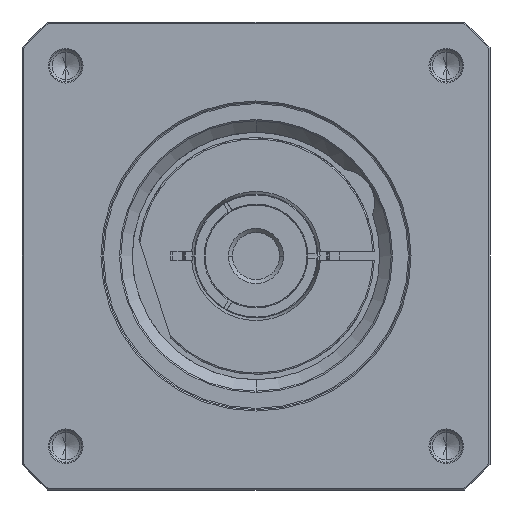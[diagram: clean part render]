
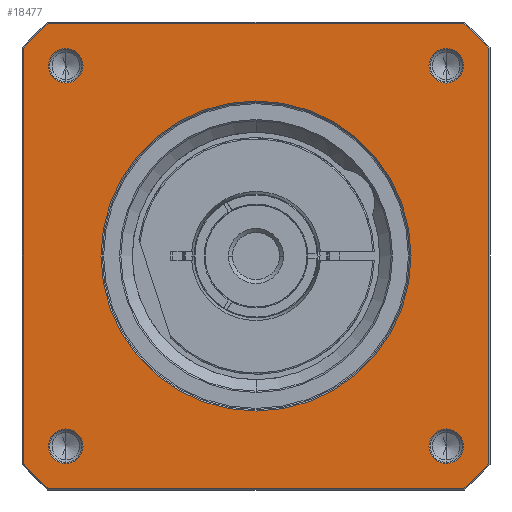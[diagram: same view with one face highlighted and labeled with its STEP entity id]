
A CAD part, left-side view. The second image highlights one B-rep face of the part: STEP entity #18477.
In plain terms, the highlighted planar face has unit normal (-1, 0, 0) as drawn and (0, 0, 1) by its records, which use the part's own axes.
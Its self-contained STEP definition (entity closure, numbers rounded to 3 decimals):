
#17228=CARTESIAN_POINT('',(0.,0.,
76.));
#17229=DIRECTION('',(0.,0.,-1.));
#17230=DIRECTION('',(0.,-1.,0.));
#17231=AXIS2_PLACEMENT_3D('',#17228,#17229,#17230);
#17233=CARTESIAN_POINT('',(0.,0.,
76.));
#17234=DIRECTION('',(0.,0.,-1.));
#17235=DIRECTION('',(0.,1.,0.));
#17236=AXIS2_PLACEMENT_3D('',#17233,#17234,#17235);
#17238=CARTESIAN_POINT('',(0.,0.,76.));
#17239=DIRECTION('',(0.,0.,1.));
#17240=DIRECTION('',(-0.746,-0.666,0.));
#17241=AXIS2_PLACEMENT_3D('',#17238,#17239,#17240);
#17253=DIRECTION('',(1.,0.,0.));
#17254=VECTOR('',#17253,154.58);
#17255=CARTESIAN_POINT('',(-77.29,-86.5,76.));
#17256=LINE('',#17255,#17254);
#17266=CARTESIAN_POINT('',(0.,0.,76.));
#17267=DIRECTION('',(0.,0.,1.));
#17268=DIRECTION('',(0.666,-0.746,0.));
#17269=AXIS2_PLACEMENT_3D('',#17266,#17267,#17268);
#17281=DIRECTION('',(0.,1.,0.));
#17282=VECTOR('',#17281,154.58);
#17283=CARTESIAN_POINT('',(86.5,-77.29,76.));
#17284=LINE('',#17283,#17282);
#17294=CARTESIAN_POINT('',(0.,0.,76.));
#17295=DIRECTION('',(0.,0.,1.));
#17296=DIRECTION('',(0.746,0.666,0.));
#17297=AXIS2_PLACEMENT_3D('',#17294,#17295,#17296);
#17309=DIRECTION('',(-1.,0.,0.));
#17310=VECTOR('',#17309,154.58);
#17311=CARTESIAN_POINT('',(77.29,86.5,76.));
#17312=LINE('',#17311,#17310);
#17317=CARTESIAN_POINT('',(0.,0.,76.));
#17318=DIRECTION('',(0.,0.,1.));
#17319=DIRECTION('',(-0.666,0.746,0.));
#17320=AXIS2_PLACEMENT_3D('',#17317,#17318,#17319);
#17337=DIRECTION('',(0.,-1.,0.));
#17338=VECTOR('',#17337,154.58);
#17339=CARTESIAN_POINT('',(-86.5,77.29,76.));
#17340=LINE('',#17339,#17338);
#17423=CARTESIAN_POINT('',(-70.711,70.711,76.));
#17424=DIRECTION('',(0.,0.,1.));
#17425=DIRECTION('',(-1.,0.,0.));
#17426=AXIS2_PLACEMENT_3D('',#17423,#17424,#17425);
#17441=CARTESIAN_POINT('',(-70.711,70.711,76.));
#17442=DIRECTION('',(0.,0.,1.));
#17443=DIRECTION('',(1.,0.,0.));
#17444=AXIS2_PLACEMENT_3D('',#17441,#17442,#17443);
#17477=CARTESIAN_POINT('',(70.711,70.711,76.));
#17478=DIRECTION('',(0.,0.,1.));
#17479=DIRECTION('',(-1.,0.,0.));
#17480=AXIS2_PLACEMENT_3D('',#17477,#17478,#17479);
#17495=CARTESIAN_POINT('',(70.711,70.711,76.));
#17496=DIRECTION('',(0.,0.,1.));
#17497=DIRECTION('',(1.,0.,0.));
#17498=AXIS2_PLACEMENT_3D('',#17495,#17496,#17497);
#17531=CARTESIAN_POINT('',(70.711,-70.711,76.));
#17532=DIRECTION('',(0.,0.,1.));
#17533=DIRECTION('',(-1.,0.,0.));
#17534=AXIS2_PLACEMENT_3D('',#17531,#17532,#17533);
#17549=CARTESIAN_POINT('',(70.711,-70.711,76.));
#17550=DIRECTION('',(0.,0.,1.));
#17551=DIRECTION('',(1.,0.,0.));
#17552=AXIS2_PLACEMENT_3D('',#17549,#17550,#17551);
#17585=CARTESIAN_POINT('',(-70.711,-70.711,76.));
#17586=DIRECTION('',(0.,0.,1.));
#17587=DIRECTION('',(-1.,0.,0.));
#17588=AXIS2_PLACEMENT_3D('',#17585,#17586,#17587);
#17603=CARTESIAN_POINT('',(-70.711,-70.711,76.));
#17604=DIRECTION('',(0.,0.,1.));
#17605=DIRECTION('',(1.,0.,0.));
#17606=AXIS2_PLACEMENT_3D('',#17603,#17604,#17605);
#17735=CARTESIAN_POINT('',(86.5,-77.29,76.));
#17736=CARTESIAN_POINT('',(86.5,77.29,76.));
#17737=VERTEX_POINT('',#17735);
#17738=VERTEX_POINT('',#17736);
#17743=CARTESIAN_POINT('',(77.29,-86.5,76.));
#17744=VERTEX_POINT('',#17743);
#17747=CARTESIAN_POINT('',(-77.29,-86.5,76.));
#17748=VERTEX_POINT('',#17747);
#17751=CARTESIAN_POINT('',(-86.5,-77.29,76.));
#17752=VERTEX_POINT('',#17751);
#17755=CARTESIAN_POINT('',(-86.5,77.29,76.));
#17756=VERTEX_POINT('',#17755);
#17759=CARTESIAN_POINT('',(-77.29,86.5,76.));
#17760=VERTEX_POINT('',#17759);
#17763=CARTESIAN_POINT('',(77.29,86.5,76.));
#17764=VERTEX_POINT('',#17763);
#17773=CARTESIAN_POINT('',(-77.111,70.711,76.));
#17774=CARTESIAN_POINT('',(-64.311,70.711,76.));
#17775=VERTEX_POINT('',#17773);
#17776=VERTEX_POINT('',#17774);
#17799=CARTESIAN_POINT('',(77.111,70.711,76.));
#17800=CARTESIAN_POINT('',(64.311,70.711,76.));
#17801=VERTEX_POINT('',#17799);
#17802=VERTEX_POINT('',#17800);
#17807=CARTESIAN_POINT('',(77.111,-70.711,76.));
#17808=CARTESIAN_POINT('',(64.311,-70.711,76.));
#17809=VERTEX_POINT('',#17807);
#17810=VERTEX_POINT('',#17808);
#17815=CARTESIAN_POINT('',(-64.311,-70.711,76.));
#17816=CARTESIAN_POINT('',(-77.111,-70.711,76.));
#17817=VERTEX_POINT('',#17815);
#17818=VERTEX_POINT('',#17816);
#17823=CARTESIAN_POINT('',(0.,-57.65,76.));
#17824=CARTESIAN_POINT('',(0.,57.65,
76.));
#17825=VERTEX_POINT('',#17823);
#17826=VERTEX_POINT('',#17824);
#18425=CARTESIAN_POINT('',(0.,0.,76.));
#18426=DIRECTION('',(0.,0.,1.));
#18427=DIRECTION('',(1.,0.,0.));
#18428=AXIS2_PLACEMENT_3D('',#18425,#18426,#18427);
#18429=PLANE('',#18428);
#18431=ORIENTED_EDGE('',*,*,#18430,.F.);
#18433=ORIENTED_EDGE('',*,*,#18432,.F.);
#18435=ORIENTED_EDGE('',*,*,#18434,.F.);
#18437=ORIENTED_EDGE('',*,*,#18436,.F.);
#18439=ORIENTED_EDGE('',*,*,#18438,.F.);
#18441=ORIENTED_EDGE('',*,*,#18440,.F.);
#18443=ORIENTED_EDGE('',*,*,#18442,.F.);
#18445=ORIENTED_EDGE('',*,*,#18444,.F.);
#18446=EDGE_LOOP('',(#18431,#18433,#18435,#18437,#18439,#18441,#18443,#18445));
#18447=FACE_OUTER_BOUND('',#18446,.F.);
#18448=ORIENTED_EDGE('',*,*,#18415,.F.);
#18450=ORIENTED_EDGE('',*,*,#18449,.F.);
#18451=EDGE_LOOP('',(#18448,#18450));
#18452=FACE_BOUND('',#18451,.F.);
#18454=ORIENTED_EDGE('',*,*,#18453,.T.);
#18456=ORIENTED_EDGE('',*,*,#18455,.T.);
#18457=EDGE_LOOP('',(#18454,#18456));
#18458=FACE_BOUND('',#18457,.F.);
#18460=ORIENTED_EDGE('',*,*,#18459,.T.);
#18462=ORIENTED_EDGE('',*,*,#18461,.T.);
#18463=EDGE_LOOP('',(#18460,#18462));
#18464=FACE_BOUND('',#18463,.F.);
#18466=ORIENTED_EDGE('',*,*,#18465,.T.);
#18468=ORIENTED_EDGE('',*,*,#18467,.T.);
#18469=EDGE_LOOP('',(#18466,#18468));
#18470=FACE_BOUND('',#18469,.F.);
#18472=ORIENTED_EDGE('',*,*,#18471,.T.);
#18474=ORIENTED_EDGE('',*,*,#18473,.T.);
#18475=EDGE_LOOP('',(#18472,#18474));
#18476=FACE_BOUND('',#18475,.F.);
#18477=ADVANCED_FACE('',(#18447,#18452,#18458,#18464,#18470,#18476),#18429,.T.);
#17232=CIRCLE('',#17231,57.65);
#17237=CIRCLE('',#17236,57.65);
#17242=CIRCLE('',#17241,116.);
#17270=CIRCLE('',#17269,116.);
#17298=CIRCLE('',#17297,116.);
#17321=CIRCLE('',#17320,116.);
#17427=CIRCLE('',#17426,6.4);
#17445=CIRCLE('',#17444,6.4);
#17481=CIRCLE('',#17480,6.4);
#17499=CIRCLE('',#17498,6.4);
#17535=CIRCLE('',#17534,6.4);
#17553=CIRCLE('',#17552,6.4);
#17589=CIRCLE('',#17588,6.4);
#17607=CIRCLE('',#17606,6.4);
#18415=EDGE_CURVE('',#17825,#17826,#17232,.T.);
#18430=EDGE_CURVE('',#17752,#17748,#17242,.T.);
#18432=EDGE_CURVE('',#17756,#17752,#17340,.T.);
#18434=EDGE_CURVE('',#17760,#17756,#17321,.T.);
#18436=EDGE_CURVE('',#17764,#17760,#17312,.T.);
#18438=EDGE_CURVE('',#17738,#17764,#17298,.T.);
#18440=EDGE_CURVE('',#17737,#17738,#17284,.T.);
#18442=EDGE_CURVE('',#17744,#17737,#17270,.T.);
#18444=EDGE_CURVE('',#17748,#17744,#17256,.T.);
#18449=EDGE_CURVE('',#17826,#17825,#17237,.T.);
#18453=EDGE_CURVE('',#17775,#17776,#17427,.T.);
#18455=EDGE_CURVE('',#17776,#17775,#17445,.T.);
#18459=EDGE_CURVE('',#17802,#17801,#17481,.T.);
#18461=EDGE_CURVE('',#17801,#17802,#17499,.T.);
#18465=EDGE_CURVE('',#17810,#17809,#17535,.T.);
#18467=EDGE_CURVE('',#17809,#17810,#17553,.T.);
#18471=EDGE_CURVE('',#17818,#17817,#17589,.T.);
#18473=EDGE_CURVE('',#17817,#17818,#17607,.T.);
